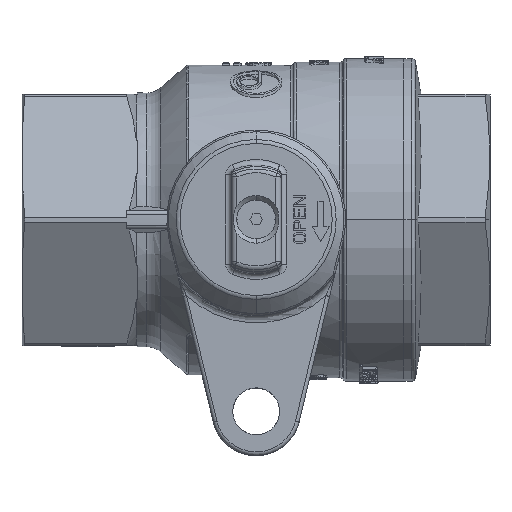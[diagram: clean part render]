
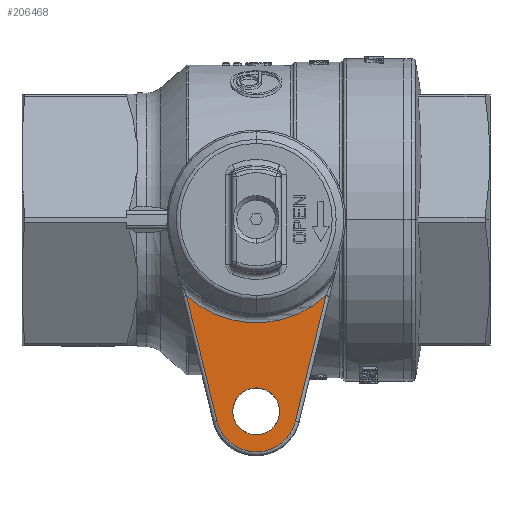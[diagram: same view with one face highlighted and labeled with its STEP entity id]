
A CAD part, top view. The second image highlights one B-rep face of the part: STEP entity #206468.
In plain terms, the highlighted planar face has unit normal (0, 0, 1).
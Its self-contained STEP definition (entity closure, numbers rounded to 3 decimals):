
#191729 = CYLINDRICAL_SURFACE('',#191730,6.35);
#191730 = AXIS2_PLACEMENT_3D('',#191731,#191732,#191733);
#191731 = CARTESIAN_POINT('',(63.5,-45.926,-13.429));
#191732 = DIRECTION('',(0.,0.,1.));
#191733 = DIRECTION('',(0.,-1.,0.));
#191760 = CYLINDRICAL_SURFACE('',#191761,6.35);
#191761 = AXIS2_PLACEMENT_3D('',#191762,#191763,#191764);
#191762 = CARTESIAN_POINT('',(63.5,-45.926,-13.429));
#191763 = DIRECTION('',(0.,0.,1.));
#191764 = DIRECTION('',(0.,-1.,0.));
#191838 = CYLINDRICAL_SURFACE('',#191839,1.);
#191839 = AXIS2_PLACEMENT_3D('',#191840,#191841,#191842);
#191840 = CARTESIAN_POINT('',(44.216,-13.064,
    -14.429));
#191841 = DIRECTION('',(0.236,-0.972,
    0.));
#191842 = DIRECTION('',(0.,0.,1.));
#206236 = CYLINDRICAL_SURFACE('',#206237,1.);
#206237 = AXIS2_PLACEMENT_3D('',#206238,#206239,#206240);
#206238 = CARTESIAN_POINT('',(74.133,-48.753,
    -14.429));
#206239 = DIRECTION('',(0.236,0.972,0.
    ));
#206240 = DIRECTION('',(0.,0.,1.));
#206378 = TOROIDAL_SURFACE('',#206379,11.,1.);
#206379 = AXIS2_PLACEMENT_3D('',#206380,#206381,#206382);
#206380 = CARTESIAN_POINT('',(63.5,-45.926,-14.429));
#206381 = DIRECTION('',(0.,0.,1.));
#206382 = DIRECTION('',(-0.975,-0.222,
    0.));
#206393 = EDGE_CURVE('',#206394,#206396,#206398,.T.);
#206394 = VERTEX_POINT('',#206395);
#206395 = CARTESIAN_POINT('',(52.81,-48.518,
    -13.429));
#206396 = VERTEX_POINT('',#206397);
#206397 = CARTESIAN_POINT('',(74.19,-48.518,
    -13.429));
#206398 = SURFACE_CURVE('',#206399,(#206404,#206411),.PCURVE_S1.);
#206399 = CIRCLE('',#206400,11.);
#206400 = AXIS2_PLACEMENT_3D('',#206401,#206402,#206403);
#206401 = CARTESIAN_POINT('',(63.5,-45.926,-13.429));
#206402 = DIRECTION('',(0.,0.,1.));
#206403 = DIRECTION('',(-0.972,-0.236,
    0.));
#206404 = PCURVE('',#206378,#206405);
#206405 = DEFINITIONAL_REPRESENTATION('',(#206406),#206410);
#206406 = LINE('',#206407,#206408);
#206407 = CARTESIAN_POINT('',(0.014,1.571));
#206408 = VECTOR('',#206409,1.);
#206409 = DIRECTION('',(1.,0.));
#206410 = ( GEOMETRIC_REPRESENTATION_CONTEXT(2) 
PARAMETRIC_REPRESENTATION_CONTEXT() REPRESENTATION_CONTEXT('2D SPACE',''
  ) );
#206411 = PCURVE('',#206412,#206417);
#206412 = PLANE('',#206413);
#206413 = AXIS2_PLACEMENT_3D('',#206414,#206415,#206416);
#206414 = CARTESIAN_POINT('',(63.5,6.074,-13.429));
#206415 = DIRECTION('',(0.,0.,1.));
#206416 = DIRECTION('',(0.,-1.,0.));
#206417 = DEFINITIONAL_REPRESENTATION('',(#206418),#206422);
#206418 = CIRCLE('',#206419,11.);
#206419 = AXIS2_PLACEMENT_2D('',#206420,#206421);
#206420 = CARTESIAN_POINT('',(52.,0.));
#206421 = DIRECTION('',(0.236,-0.972));
#206422 = ( GEOMETRIC_REPRESENTATION_CONTEXT(2) 
PARAMETRIC_REPRESENTATION_CONTEXT() REPRESENTATION_CONTEXT('2D SPACE',''
  ) );
#206468 = ADVANCED_FACE('',(#206469,#206549),#206412,.T.);
#206469 = FACE_BOUND('',#206470,.T.);
#206470 = EDGE_LOOP('',(#206471,#206506,#206527,#206528));
#206471 = ORIENTED_EDGE('',*,*,#206472,.T.);
#206472 = EDGE_CURVE('',#206473,#206475,#206477,.T.);
#206473 = VERTEX_POINT('',#206474);
#206474 = CARTESIAN_POINT('',(82.42,-14.567,
    -13.429));
#206475 = VERTEX_POINT('',#206476);
#206476 = CARTESIAN_POINT('',(44.58,-14.567,
    -13.429));
#206477 = SURFACE_CURVE('',#206478,(#206483,#206494),.PCURVE_S1.);
#206478 = CIRCLE('',#206479,28.);
#206479 = AXIS2_PLACEMENT_3D('',#206480,#206481,#206482);
#206480 = CARTESIAN_POINT('',(63.5,6.074,-13.429));
#206481 = DIRECTION('',(0.,0.,-1.));
#206482 = DIRECTION('',(0.676,-0.737,
    0.));
#206483 = PCURVE('',#206412,#206484);
#206484 = DEFINITIONAL_REPRESENTATION('',(#206485),#206493);
#206485 = ( BOUNDED_CURVE() B_SPLINE_CURVE(2,(#206486,#206487,#206488,
    #206489,#206490,#206491,#206492),.UNSPECIFIED.,.T.,.F.) 
B_SPLINE_CURVE_WITH_KNOTS((1,2,2,2,2,1),(-2.094,0.,
    2.094,4.189,6.283,8.378),
.UNSPECIFIED.) CURVE() GEOMETRIC_REPRESENTATION_ITEM() 
RATIONAL_B_SPLINE_CURVE((1.,0.5,1.,0.5,1.,0.5,1.)) REPRESENTATION_ITEM(
  '') );
#206486 = CARTESIAN_POINT('',(20.641,18.92));
#206487 = CARTESIAN_POINT('',(53.411,-16.83));
#206488 = CARTESIAN_POINT('',(6.065,-27.335));
#206489 = CARTESIAN_POINT('',(-41.281,-37.84));
#206490 = CARTESIAN_POINT('',(-26.706,8.415));
#206491 = CARTESIAN_POINT('',(-12.13,54.671));
#206492 = CARTESIAN_POINT('',(20.641,18.92));
#206493 = ( GEOMETRIC_REPRESENTATION_CONTEXT(2) 
PARAMETRIC_REPRESENTATION_CONTEXT() REPRESENTATION_CONTEXT('2D SPACE',''
  ) );
#206494 = PCURVE('',#206495,#206500);
#206495 = TOROIDAL_SURFACE('',#206496,28.,2.);
#206496 = AXIS2_PLACEMENT_3D('',#206497,#206498,#206499);
#206497 = CARTESIAN_POINT('',(63.5,6.074,-11.429));
#206498 = DIRECTION('',(0.,0.,-1.));
#206499 = DIRECTION('',(0.827,-0.563,
    0.));
#206500 = DEFINITIONAL_REPRESENTATION('',(#206501),#206505);
#206501 = LINE('',#206502,#206503);
#206502 = CARTESIAN_POINT('',(0.231,1.571));
#206503 = VECTOR('',#206504,1.);
#206504 = DIRECTION('',(1.,0.));
#206505 = ( GEOMETRIC_REPRESENTATION_CONTEXT(2) 
PARAMETRIC_REPRESENTATION_CONTEXT() REPRESENTATION_CONTEXT('2D SPACE',''
  ) );
#206506 = ORIENTED_EDGE('',*,*,#206507,.T.);
#206507 = EDGE_CURVE('',#206475,#206394,#206508,.T.);
#206508 = SURFACE_CURVE('',#206509,(#206513,#206520),.PCURVE_S1.);
#206509 = LINE('',#206510,#206511);
#206510 = CARTESIAN_POINT('',(44.58,-14.567,
    -13.429));
#206511 = VECTOR('',#206512,1.);
#206512 = DIRECTION('',(0.236,-0.972,
    0.));
#206513 = PCURVE('',#206412,#206514);
#206514 = DEFINITIONAL_REPRESENTATION('',(#206515),#206519);
#206515 = LINE('',#206516,#206517);
#206516 = CARTESIAN_POINT('',(20.641,-18.92));
#206517 = VECTOR('',#206518,1.);
#206518 = DIRECTION('',(0.972,0.236));
#206519 = ( GEOMETRIC_REPRESENTATION_CONTEXT(2) 
PARAMETRIC_REPRESENTATION_CONTEXT() REPRESENTATION_CONTEXT('2D SPACE',''
  ) );
#206520 = PCURVE('',#191838,#206521);
#206521 = DEFINITIONAL_REPRESENTATION('',(#206522),#206526);
#206522 = LINE('',#206523,#206524);
#206523 = CARTESIAN_POINT('',(0.,1.547));
#206524 = VECTOR('',#206525,1.);
#206525 = DIRECTION('',(0.,1.));
#206526 = ( GEOMETRIC_REPRESENTATION_CONTEXT(2) 
PARAMETRIC_REPRESENTATION_CONTEXT() REPRESENTATION_CONTEXT('2D SPACE',''
  ) );
#206527 = ORIENTED_EDGE('',*,*,#206393,.T.);
#206528 = ORIENTED_EDGE('',*,*,#206529,.T.);
#206529 = EDGE_CURVE('',#206396,#206473,#206530,.T.);
#206530 = SURFACE_CURVE('',#206531,(#206535,#206542),.PCURVE_S1.);
#206531 = LINE('',#206532,#206533);
#206532 = CARTESIAN_POINT('',(74.19,-48.518,
    -13.429));
#206533 = VECTOR('',#206534,1.);
#206534 = DIRECTION('',(0.236,0.972,
    0.));
#206535 = PCURVE('',#206412,#206536);
#206536 = DEFINITIONAL_REPRESENTATION('',(#206537),#206541);
#206537 = LINE('',#206538,#206539);
#206538 = CARTESIAN_POINT('',(54.591,10.69));
#206539 = VECTOR('',#206540,1.);
#206540 = DIRECTION('',(-0.972,0.236));
#206541 = ( GEOMETRIC_REPRESENTATION_CONTEXT(2) 
PARAMETRIC_REPRESENTATION_CONTEXT() REPRESENTATION_CONTEXT('2D SPACE',''
  ) );
#206542 = PCURVE('',#206236,#206543);
#206543 = DEFINITIONAL_REPRESENTATION('',(#206544),#206548);
#206544 = LINE('',#206545,#206546);
#206545 = CARTESIAN_POINT('',(0.,0.242));
#206546 = VECTOR('',#206547,1.);
#206547 = DIRECTION('',(0.,1.));
#206548 = ( GEOMETRIC_REPRESENTATION_CONTEXT(2) 
PARAMETRIC_REPRESENTATION_CONTEXT() REPRESENTATION_CONTEXT('2D SPACE',''
  ) );
#206549 = FACE_BOUND('',#206550,.T.);
#206550 = EDGE_LOOP('',(#206551,#206577));
#206551 = ORIENTED_EDGE('',*,*,#206552,.F.);
#206552 = EDGE_CURVE('',#206553,#206555,#206557,.T.);
#206553 = VERTEX_POINT('',#206554);
#206554 = CARTESIAN_POINT('',(63.5,-39.576,-13.429));
#206555 = VERTEX_POINT('',#206556);
#206556 = CARTESIAN_POINT('',(63.5,-52.276,-13.429));
#206557 = SURFACE_CURVE('',#206558,(#206563,#206570),.PCURVE_S1.);
#206558 = CIRCLE('',#206559,6.35);
#206559 = AXIS2_PLACEMENT_3D('',#206560,#206561,#206562);
#206560 = CARTESIAN_POINT('',(63.5,-45.926,-13.429));
#206561 = DIRECTION('',(0.,0.,1.));
#206562 = DIRECTION('',(0.,1.,0.));
#206563 = PCURVE('',#206412,#206564);
#206564 = DEFINITIONAL_REPRESENTATION('',(#206565),#206569);
#206565 = CIRCLE('',#206566,6.35);
#206566 = AXIS2_PLACEMENT_2D('',#206567,#206568);
#206567 = CARTESIAN_POINT('',(52.,0.));
#206568 = DIRECTION('',(-1.,0.));
#206569 = ( GEOMETRIC_REPRESENTATION_CONTEXT(2) 
PARAMETRIC_REPRESENTATION_CONTEXT() REPRESENTATION_CONTEXT('2D SPACE',''
  ) );
#206570 = PCURVE('',#191729,#206571);
#206571 = DEFINITIONAL_REPRESENTATION('',(#206572),#206576);
#206572 = LINE('',#206573,#206574);
#206573 = CARTESIAN_POINT('',(3.142,0.));
#206574 = VECTOR('',#206575,1.);
#206575 = DIRECTION('',(1.,0.));
#206576 = ( GEOMETRIC_REPRESENTATION_CONTEXT(2) 
PARAMETRIC_REPRESENTATION_CONTEXT() REPRESENTATION_CONTEXT('2D SPACE',''
  ) );
#206577 = ORIENTED_EDGE('',*,*,#206578,.F.);
#206578 = EDGE_CURVE('',#206555,#206553,#206579,.T.);
#206579 = SURFACE_CURVE('',#206580,(#206585,#206592),.PCURVE_S1.);
#206580 = CIRCLE('',#206581,6.35);
#206581 = AXIS2_PLACEMENT_3D('',#206582,#206583,#206584);
#206582 = CARTESIAN_POINT('',(63.5,-45.926,-13.429));
#206583 = DIRECTION('',(0.,0.,1.));
#206584 = DIRECTION('',(0.,-1.,0.));
#206585 = PCURVE('',#206412,#206586);
#206586 = DEFINITIONAL_REPRESENTATION('',(#206587),#206591);
#206587 = CIRCLE('',#206588,6.35);
#206588 = AXIS2_PLACEMENT_2D('',#206589,#206590);
#206589 = CARTESIAN_POINT('',(52.,0.));
#206590 = DIRECTION('',(1.,0.));
#206591 = ( GEOMETRIC_REPRESENTATION_CONTEXT(2) 
PARAMETRIC_REPRESENTATION_CONTEXT() REPRESENTATION_CONTEXT('2D SPACE',''
  ) );
#206592 = PCURVE('',#191760,#206593);
#206593 = DEFINITIONAL_REPRESENTATION('',(#206594),#206598);
#206594 = LINE('',#206595,#206596);
#206595 = CARTESIAN_POINT('',(0.,0.));
#206596 = VECTOR('',#206597,1.);
#206597 = DIRECTION('',(1.,0.));
#206598 = ( GEOMETRIC_REPRESENTATION_CONTEXT(2) 
PARAMETRIC_REPRESENTATION_CONTEXT() REPRESENTATION_CONTEXT('2D SPACE',''
  ) );
